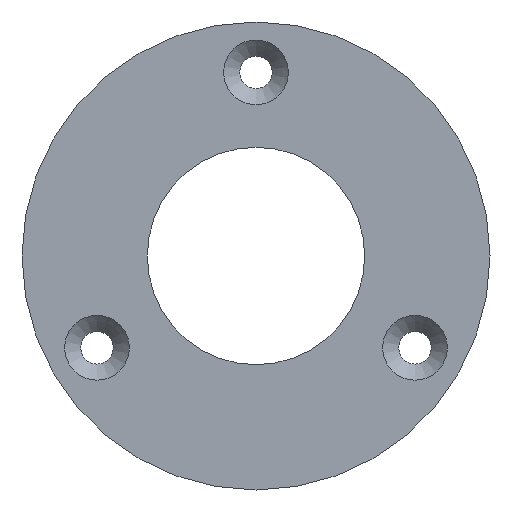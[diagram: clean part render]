
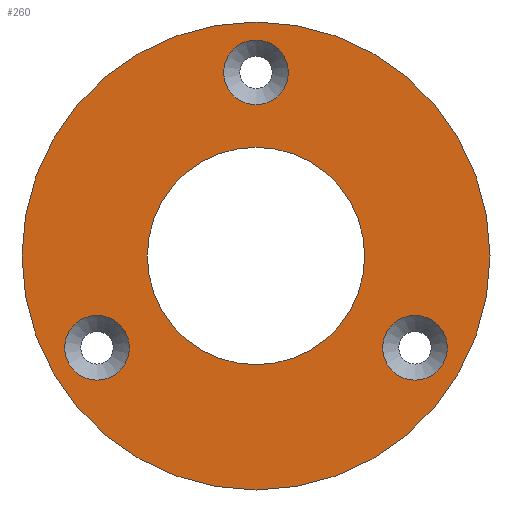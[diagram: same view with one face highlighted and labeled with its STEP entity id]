
A CAD part, left-side view. The second image highlights one B-rep face of the part: STEP entity #260.
In plain terms, the highlighted planar face has unit normal (-1, 0, 0).
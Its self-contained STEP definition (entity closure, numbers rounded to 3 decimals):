
#20=PLANE('',#306);
#51=FACE_BOUND('',#114,.T.);
#52=FACE_BOUND('',#115,.T.);
#53=FACE_BOUND('',#116,.T.);
#54=FACE_BOUND('',#117,.T.);
#55=FACE_BOUND('',#118,.T.);
#114=EDGE_LOOP('',(#229));
#115=EDGE_LOOP('',(#230));
#116=EDGE_LOOP('',(#231));
#117=EDGE_LOOP('',(#232));
#118=EDGE_LOOP('',(#233));
#121=CIRCLE('',#268,4.497);
#124=CIRCLE('',#273,4.497);
#127=CIRCLE('',#278,4.497);
#131=CIRCLE('',#285,15.1);
#133=CIRCLE('',#288,32.5);
#144=VERTEX_POINT('',#402);
#147=VERTEX_POINT('',#410);
#150=VERTEX_POINT('',#418);
#154=VERTEX_POINT('',#429);
#156=VERTEX_POINT('',#434);
#167=EDGE_CURVE('',#144,#144,#121,.T.);
#170=EDGE_CURVE('',#147,#147,#124,.T.);
#173=EDGE_CURVE('',#150,#150,#127,.T.);
#177=EDGE_CURVE('',#154,#154,#131,.T.);
#179=EDGE_CURVE('',#156,#156,#133,.T.);
#229=ORIENTED_EDGE('',*,*,#167,.T.);
#230=ORIENTED_EDGE('',*,*,#170,.T.);
#231=ORIENTED_EDGE('',*,*,#173,.T.);
#232=ORIENTED_EDGE('',*,*,#179,.F.);
#233=ORIENTED_EDGE('',*,*,#177,.T.);
#260=ADVANCED_FACE('',(#51,#52,#53,#54,#55),#20,.T.);
#268=AXIS2_PLACEMENT_3D('',#403,#317,#318);
#273=AXIS2_PLACEMENT_3D('',#411,#327,#328);
#278=AXIS2_PLACEMENT_3D('',#419,#337,#338);
#285=AXIS2_PLACEMENT_3D('',#430,#351,#352);
#288=AXIS2_PLACEMENT_3D('',#435,#357,#358);
#306=AXIS2_PLACEMENT_3D('',#461,#393,#394);
#317=DIRECTION('center_axis',(1.,0.,0.));
#318=DIRECTION('ref_axis',(0.,-0.866,0.5));
#327=DIRECTION('center_axis',(1.,0.,0.));
#328=DIRECTION('ref_axis',(0.,0.866,0.5));
#337=DIRECTION('center_axis',(1.,0.,0.));
#338=DIRECTION('ref_axis',(0.,0.,-1.));
#351=DIRECTION('center_axis',(1.,0.,0.));
#352=DIRECTION('ref_axis',(0.,1.,0.));
#357=DIRECTION('center_axis',(1.,0.,0.));
#358=DIRECTION('ref_axis',(0.,1.,0.));
#393=DIRECTION('center_axis',(-1.,0.,0.));
#394=DIRECTION('ref_axis',(0.,0.,1.));
#402=CARTESIAN_POINT('',(0.,18.189,-10.502));
#403=CARTESIAN_POINT('Origin',(0.,22.084,-12.75));
#410=CARTESIAN_POINT('',(0.,-18.189,-10.502));
#411=CARTESIAN_POINT('Origin',(0.,-22.084,-12.75));
#418=CARTESIAN_POINT('',(0.,0.,21.003));
#419=CARTESIAN_POINT('Origin',(0.,0.,25.5));
#429=CARTESIAN_POINT('',(0.,15.1,0.));
#430=CARTESIAN_POINT('Origin',(0.,0.,0.));
#434=CARTESIAN_POINT('',(0.,32.5,0.));
#435=CARTESIAN_POINT('Origin',(0.,0.,0.));
#461=CARTESIAN_POINT('Origin',(0.,23.8,0.));
